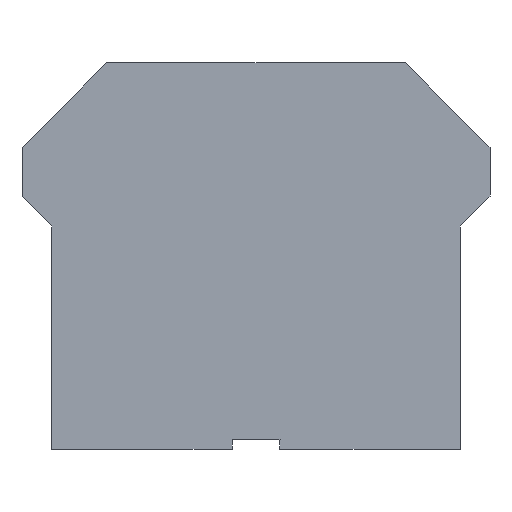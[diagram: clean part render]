
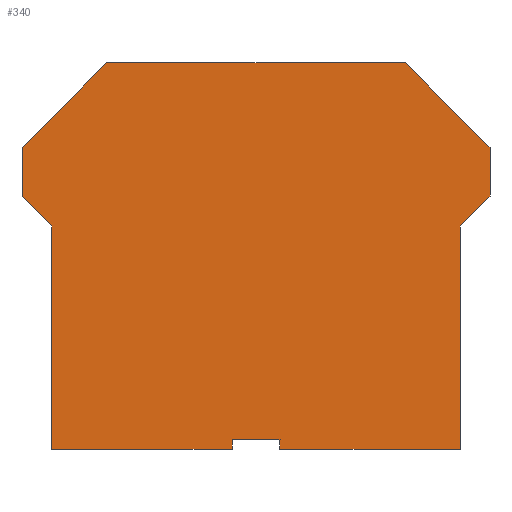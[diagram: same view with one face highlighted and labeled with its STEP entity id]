
A CAD part, front view. The second image highlights one B-rep face of the part: STEP entity #340.
In plain terms, the highlighted planar face has unit normal (0, -1, 0).
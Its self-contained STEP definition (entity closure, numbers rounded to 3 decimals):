
#20=CIRCLE('',#361,0.5);
#98=ORIENTED_EDGE('',*,*,#113,.T.);
#99=ORIENTED_EDGE('',*,*,#117,.T.);
#100=ORIENTED_EDGE('',*,*,#120,.T.);
#101=ORIENTED_EDGE('',*,*,#123,.T.);
#102=ORIENTED_EDGE('',*,*,#126,.T.);
#103=ORIENTED_EDGE('',*,*,#129,.T.);
#104=ORIENTED_EDGE('',*,*,#132,.T.);
#105=ORIENTED_EDGE('',*,*,#135,.T.);
#106=ORIENTED_EDGE('',*,*,#138,.T.);
#107=ORIENTED_EDGE('',*,*,#141,.T.);
#108=ORIENTED_EDGE('',*,*,#144,.T.);
#109=ORIENTED_EDGE('',*,*,#147,.T.);
#110=ORIENTED_EDGE('',*,*,#150,.T.);
#111=ORIENTED_EDGE('',*,*,#153,.T.);
#112=ORIENTED_EDGE('',*,*,#156,.T.);
#113=EDGE_CURVE('',#158,#159,#188,.T.);
#117=EDGE_CURVE('',#159,#162,#192,.T.);
#120=EDGE_CURVE('',#162,#164,#195,.T.);
#123=EDGE_CURVE('',#164,#166,#198,.T.);
#126=EDGE_CURVE('',#166,#168,#201,.T.);
#129=EDGE_CURVE('',#168,#170,#204,.T.);
#132=EDGE_CURVE('',#170,#172,#20,.T.);
#135=EDGE_CURVE('',#172,#174,#208,.T.);
#138=EDGE_CURVE('',#174,#176,#211,.T.);
#141=EDGE_CURVE('',#176,#178,#214,.T.);
#144=EDGE_CURVE('',#178,#180,#217,.T.);
#147=EDGE_CURVE('',#180,#182,#220,.T.);
#150=EDGE_CURVE('',#182,#184,#223,.T.);
#153=EDGE_CURVE('',#184,#186,#226,.T.);
#156=EDGE_CURVE('',#186,#158,#229,.T.);
#158=VERTEX_POINT('',#459);
#159=VERTEX_POINT('',#460);
#162=VERTEX_POINT('',#468);
#164=VERTEX_POINT('',#474);
#166=VERTEX_POINT('',#480);
#168=VERTEX_POINT('',#486);
#170=VERTEX_POINT('',#492);
#172=VERTEX_POINT('',#498);
#174=VERTEX_POINT('',#504);
#176=VERTEX_POINT('',#510);
#178=VERTEX_POINT('',#516);
#180=VERTEX_POINT('',#522);
#182=VERTEX_POINT('',#528);
#184=VERTEX_POINT('',#534);
#186=VERTEX_POINT('',#540);
#188=LINE('',#458,#231);
#192=LINE('',#467,#235);
#195=LINE('',#473,#238);
#198=LINE('',#479,#241);
#201=LINE('',#485,#244);
#204=LINE('',#491,#247);
#208=LINE('',#503,#251);
#211=LINE('',#509,#254);
#214=LINE('',#515,#257);
#217=LINE('',#521,#260);
#220=LINE('',#527,#263);
#223=LINE('',#533,#266);
#226=LINE('',#539,#269);
#229=LINE('',#545,#272);
#231=VECTOR('',#377,1000.);
#235=VECTOR('',#383,1000.);
#238=VECTOR('',#388,1000.);
#241=VECTOR('',#393,1000.);
#244=VECTOR('',#398,1000.);
#247=VECTOR('',#403,1000.);
#251=VECTOR('',#415,1000.);
#254=VECTOR('',#420,1000.);
#257=VECTOR('',#425,1000.);
#260=VECTOR('',#430,1000.);
#263=VECTOR('',#435,1000.);
#266=VECTOR('',#440,1000.);
#269=VECTOR('',#445,1000.);
#272=VECTOR('',#450,1000.);
#290=EDGE_LOOP('',(#98,#99,#100,#101,#102,#103,#104,#105,#106,#107,#108,
#109,#110,#111,#112));
#307=FACE_BOUND('',#290,.T.);
#323=PLANE('',#372);
#340=ADVANCED_FACE('',(#307),#323,.T.);
#361=AXIS2_PLACEMENT_3D('',#497,#408,#409);
#372=AXIS2_PLACEMENT_3D('',#548,#454,#455);
#377=DIRECTION('',(0.707,0.,0.707));
#383=DIRECTION('',(0.,0.,1.));
#388=DIRECTION('',(-0.707,0.,0.708));
#393=DIRECTION('',(-1.,0.,0.));
#398=DIRECTION('',(-0.707,0.,-0.708));
#403=DIRECTION('',(0.,0.,-1.));
#408=DIRECTION('',(0.,-1.,0.));
#409=DIRECTION('',(1.,0.,0.));
#415=DIRECTION('',(0.707,0.,-0.707));
#420=DIRECTION('',(0.,0.,-1.));
#425=DIRECTION('',(1.,0.,0.));
#430=DIRECTION('',(0.,0.,1.));
#435=DIRECTION('',(1.,0.,0.));
#440=DIRECTION('',(0.,0.,-1.));
#445=DIRECTION('',(1.,0.,0.));
#450=DIRECTION('',(0.,0.,1.));
#454=DIRECTION('',(0.,-1.,0.));
#455=DIRECTION('',(0.,0.,-1.));
#458=CARTESIAN_POINT('',(17.,-1.5,-13.6));
#459=CARTESIAN_POINT('',(17.,-1.5,-13.6));
#460=CARTESIAN_POINT('',(19.5,-1.5,-11.1));
#467=CARTESIAN_POINT('',(19.5,-1.5,-11.1));
#468=CARTESIAN_POINT('',(19.5,-1.5,-7.059));
#473=CARTESIAN_POINT('',(19.5,-1.5,-7.059));
#474=CARTESIAN_POINT('',(12.451,-1.5,0.));
#479=CARTESIAN_POINT('',(12.451,-1.5,0.));
#480=CARTESIAN_POINT('',(-12.451,-1.5,0.));
#485=CARTESIAN_POINT('',(-12.451,-1.5,0.));
#486=CARTESIAN_POINT('',(-19.5,-1.5,-7.059));
#491=CARTESIAN_POINT('',(-19.5,-1.5,-7.059));
#492=CARTESIAN_POINT('',(-19.5,-1.5,-10.893));
#497=CARTESIAN_POINT('',(-19.,-1.5,-10.893));
#498=CARTESIAN_POINT('',(-19.354,-1.5,-11.246));
#503=CARTESIAN_POINT('',(-19.354,-1.5,-11.246));
#504=CARTESIAN_POINT('',(-17.,-1.5,-13.6));
#509=CARTESIAN_POINT('',(-17.,-1.5,-13.6));
#510=CARTESIAN_POINT('',(-17.,-1.5,-32.2));
#515=CARTESIAN_POINT('',(-17.,-1.5,-32.2));
#516=CARTESIAN_POINT('',(-2.,-1.5,-32.2));
#521=CARTESIAN_POINT('',(-2.,-1.5,-32.2));
#522=CARTESIAN_POINT('',(-2.,-1.5,-31.4));
#527=CARTESIAN_POINT('',(-2.,-1.5,-31.4));
#528=CARTESIAN_POINT('',(2.,-1.5,-31.4));
#533=CARTESIAN_POINT('',(2.,-1.5,-31.4));
#534=CARTESIAN_POINT('',(2.,-1.5,-32.2));
#539=CARTESIAN_POINT('',(2.,-1.5,-32.2));
#540=CARTESIAN_POINT('',(17.,-1.5,-32.2));
#545=CARTESIAN_POINT('',(17.,-1.5,-32.2));
#548=CARTESIAN_POINT('',(-19.,-1.5,-10.893));
